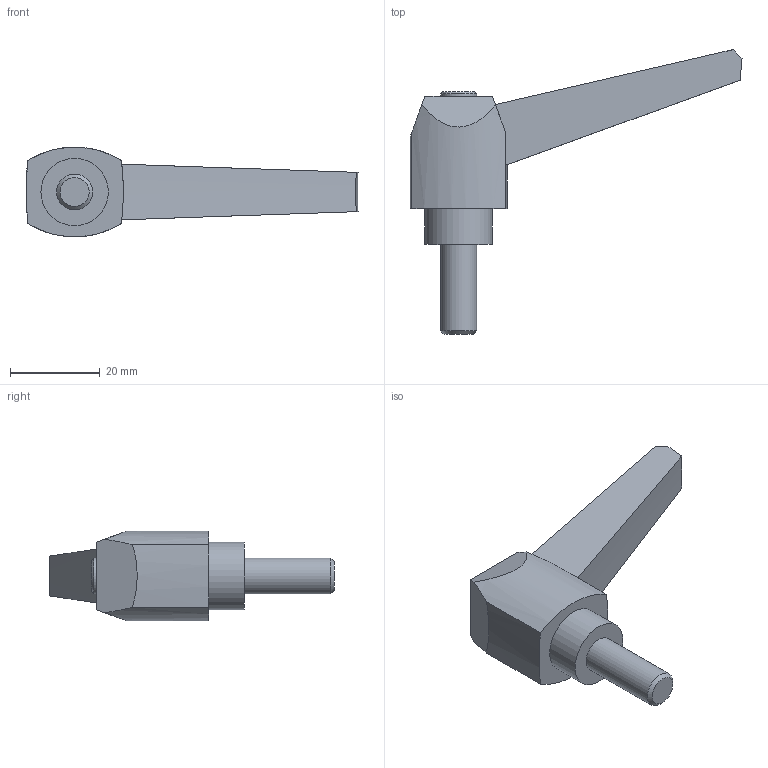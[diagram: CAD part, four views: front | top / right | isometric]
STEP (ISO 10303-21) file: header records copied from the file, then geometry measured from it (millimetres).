
FILE_DESCRIPTION( ( 'STEP AP203' ), '1' );
FILE_NAME( 'C:/Temp/Ganter_Step_05_03_2020/data/2_1/gn_500/gn_500_ms/Adjustable hand lever GN 500-63-M8-20-SW.stp', '2020-03-05T11:26:34', ( 'License CC BY-ND 4.0' ), ( 'CADENAS' ), ' ', 'PARTsolutions', ' ' );
FILE_SCHEMA( ( 'CONFIG_CONTROL_DESIGN' ) );
Length unit declared in the file: millimetre
Products named in the file (1): _Adjustable hand lever GN 500-63-M8-20-SW
Bounding box: 73.9 x 63.35 x 20 mm (x, y, z)
Volume: 17492.7 mm3; surface area: 5466.2 mm2
Topology: 1 solids, 1 shells, 24 faces, 56 edges, 37 vertices
Faces by surface type: plane 11, cylinder 7, cone 6
Full cylindrical faces by diameter (mm): 8 x2, 15 x1
Entity records: 708 total; most frequent: DIRECTION 122, CARTESIAN_POINT 117, ORIENTED_EDGE 100, EDGE_CURVE 50, AXIS2_PLACEMENT_3D 49, VERTEX_POINT 36, EDGE_LOOP 32, FACE_OUTER_BOUND 27
